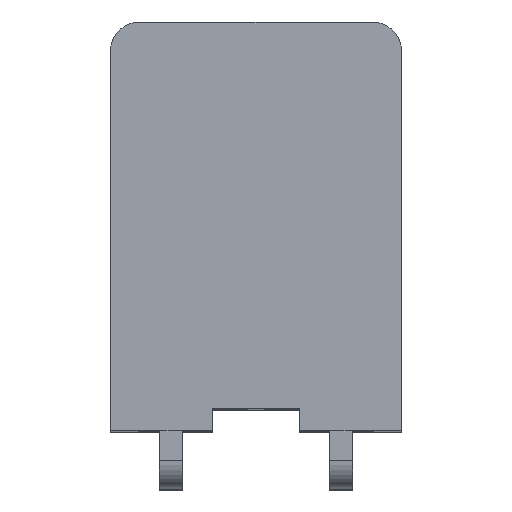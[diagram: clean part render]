
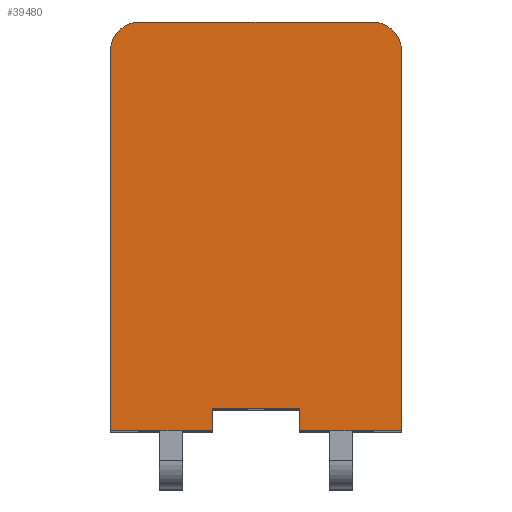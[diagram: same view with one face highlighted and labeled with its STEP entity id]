
A CAD part, top view. The second image highlights one B-rep face of the part: STEP entity #39480.
In plain terms, the highlighted planar face has unit normal (0, 0, 1).
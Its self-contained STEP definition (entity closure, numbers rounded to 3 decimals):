
#5494=DIRECTION('',(0.,1.,0.));
#5495=VECTOR('',#5494,26.1);
#5496=CARTESIAN_POINT('',(0.,0.,0.));
#5497=LINE('',#5496,#5495);
#6265=DIRECTION('',(0.,-1.,0.));
#6266=VECTOR('',#6265,26.1);
#6267=CARTESIAN_POINT('',(20.,26.1,0.));
#6268=LINE('',#6267,#6266);
#6581=DIRECTION('',(-1.,0.,0.));
#6582=VECTOR('',#6581,7.);
#6583=CARTESIAN_POINT('',(20.,0.,0.));
#6584=LINE('',#6583,#6582);
#7009=DIRECTION('',(0.,1.,0.));
#7010=VECTOR('',#7009,1.5);
#7011=CARTESIAN_POINT('',(13.,0.,0.));
#7012=LINE('',#7011,#7010);
#7021=CARTESIAN_POINT('',(18.,26.1,0.));
#7022=DIRECTION('',(0.,0.,1.));
#7023=DIRECTION('',(1.,0.,0.));
#7024=AXIS2_PLACEMENT_3D('',#7021,#7022,#7023);
#7026=DIRECTION('',(1.,0.,0.));
#7027=VECTOR('',#7026,6.);
#7028=CARTESIAN_POINT('',(7.,1.5,0.));
#7029=LINE('',#7028,#7027);
#7030=DIRECTION('',(0.,1.,0.));
#7031=VECTOR('',#7030,1.5);
#7032=CARTESIAN_POINT('',(7.,0.,0.));
#7033=LINE('',#7032,#7031);
#7034=DIRECTION('',(1.,0.,0.));
#7035=VECTOR('',#7034,7.);
#7036=CARTESIAN_POINT('',(0.,0.,0.));
#7037=LINE('',#7036,#7035);
#7038=CARTESIAN_POINT('',(2.,26.1,0.));
#7039=DIRECTION('',(0.,0.,1.));
#7040=DIRECTION('',(0.,1.,0.));
#7041=AXIS2_PLACEMENT_3D('',#7038,#7039,#7040);
#7051=DIRECTION('',(1.,0.,0.));
#7052=VECTOR('',#7051,16.);
#7053=CARTESIAN_POINT('',(2.,28.1,0.));
#7054=LINE('',#7053,#7052);
#25209=CARTESIAN_POINT('',(0.,0.,0.));
#25210=CARTESIAN_POINT('',(7.,0.,0.));
#25211=VERTEX_POINT('',#25209);
#25212=VERTEX_POINT('',#25210);
#25261=CARTESIAN_POINT('',(7.,1.5,0.));
#25262=VERTEX_POINT('',#25261);
#25263=CARTESIAN_POINT('',(13.,1.5,0.));
#25264=VERTEX_POINT('',#25263);
#25317=CARTESIAN_POINT('',(20.,26.1,0.));
#25318=CARTESIAN_POINT('',(20.,0.,0.));
#25319=VERTEX_POINT('',#25317);
#25320=VERTEX_POINT('',#25318);
#25321=CARTESIAN_POINT('',(13.,0.,0.));
#25322=VERTEX_POINT('',#25321);
#25323=CARTESIAN_POINT('',(0.,26.1,0.));
#25324=VERTEX_POINT('',#25323);
#25325=CARTESIAN_POINT('',(2.,28.1,0.));
#25326=VERTEX_POINT('',#25325);
#25327=CARTESIAN_POINT('',(18.,28.1,0.));
#25328=VERTEX_POINT('',#25327);
#39459=CARTESIAN_POINT('',(10.,14.05,0.));
#39460=DIRECTION('',(0.,0.,1.));
#39461=DIRECTION('',(-1.,0.,0.));
#39462=AXIS2_PLACEMENT_3D('',#39459,#39460,#39461);
#39463=PLANE('',#39462);
#39465=ORIENTED_EDGE('',*,*,#39464,.F.);
#39466=ORIENTED_EDGE('',*,*,#38424,.T.);
#39467=ORIENTED_EDGE('',*,*,#38920,.T.);
#39468=ORIENTED_EDGE('',*,*,#39452,.T.);
#39469=ORIENTED_EDGE('',*,*,#37458,.F.);
#39471=ORIENTED_EDGE('',*,*,#39470,.F.);
#39472=ORIENTED_EDGE('',*,*,#37256,.F.);
#39473=ORIENTED_EDGE('',*,*,#37221,.T.);
#39475=ORIENTED_EDGE('',*,*,#39474,.F.);
#39477=ORIENTED_EDGE('',*,*,#39476,.T.);
#39478=EDGE_LOOP('',(#39465,#39466,#39467,#39468,#39469,#39471,#39472,#39473,
#39475,#39477));
#39479=FACE_OUTER_BOUND('',#39478,.F.);
#39480=ADVANCED_FACE('',(#39479),#39463,.T.);
#7025=CIRCLE('',#7024,2.);
#7042=CIRCLE('',#7041,2.);
#37221=EDGE_CURVE('',#25211,#25324,#5497,.T.);
#37256=EDGE_CURVE('',#25211,#25212,#7037,.T.);
#37458=EDGE_CURVE('',#25262,#25264,#7029,.T.);
#38424=EDGE_CURVE('',#25319,#25320,#6268,.T.);
#38920=EDGE_CURVE('',#25320,#25322,#6584,.T.);
#39452=EDGE_CURVE('',#25322,#25264,#7012,.T.);
#39464=EDGE_CURVE('',#25319,#25328,#7025,.T.);
#39470=EDGE_CURVE('',#25212,#25262,#7033,.T.);
#39474=EDGE_CURVE('',#25326,#25324,#7042,.T.);
#39476=EDGE_CURVE('',#25326,#25328,#7054,.T.);
